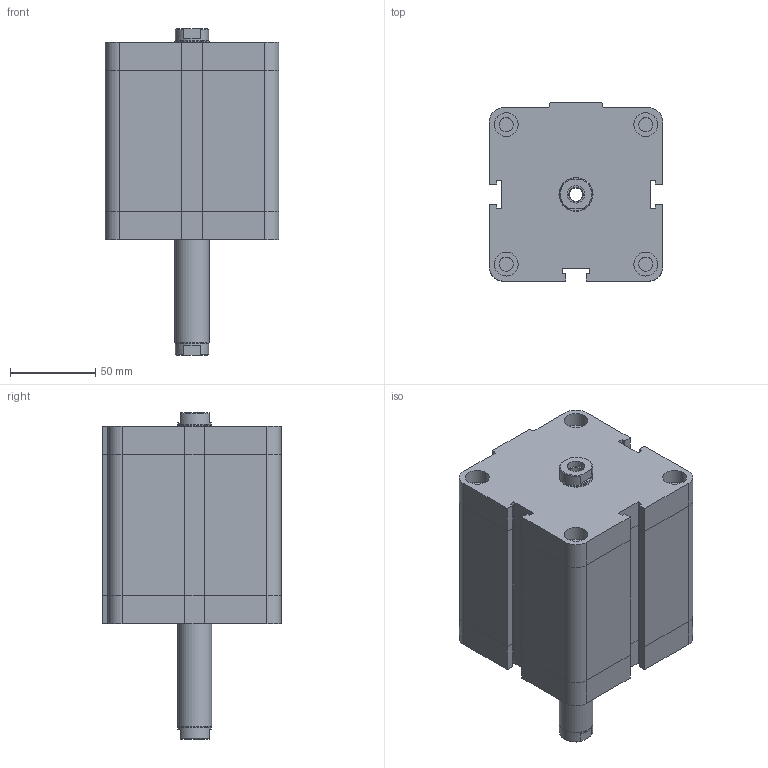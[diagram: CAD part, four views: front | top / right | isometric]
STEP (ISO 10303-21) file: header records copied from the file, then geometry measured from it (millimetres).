
FILE_DESCRIPTION((''),'2;1');
FILE_NAME('I:\Area Tecnica\Disegni\VARIE-3D\Componenti\EUROPE\15##_###_####_06_#\1581_80_0060_06_1.iam.stp','2009-04-20T15:12:17',(''),(''),'Autodesk Inventor 2009','Autodesk Inventor 2009','');
FILE_SCHEMA(('AUTOMOTIVE_DESIGN { 1 0 10303 214 1 1 1 1 }'));
Length unit declared in the file: millimetre
Products named in the file (3): 1581_80_0060_06_1; 1581_80_0060_03_1_C; 1561_80_0060_06_1_S
Assembly tree (2 placements, depth 2):
  1581_80_0060_06_1
    1581_80_0060_03_1_C
    1561_80_0060_06_1_S
Bounding box: 102 x 105 x 192 mm (x, y, z)
Volume: 1170244.2 mm3; surface area: 105225.2 mm2
Topology: 2 solids, 2 shells, 175 faces, 382 edges, 233 vertices
Faces by surface type: plane 114, bspline 30, cylinder 25, cone 6
Full cylindrical faces by diameter (mm): 8.376 x5, 10.3 x1, 14 x4, 19.5 x2, 20 x1
Entity records: 4805 total; most frequent: CARTESIAN_POINT 1042, DIRECTION 712, ORIENTED_EDGE 680, EDGE_CURVE 340, VECTOR 252, LINE 252, AXIS2_PLACEMENT_3D 230, EDGE_LOOP 230
